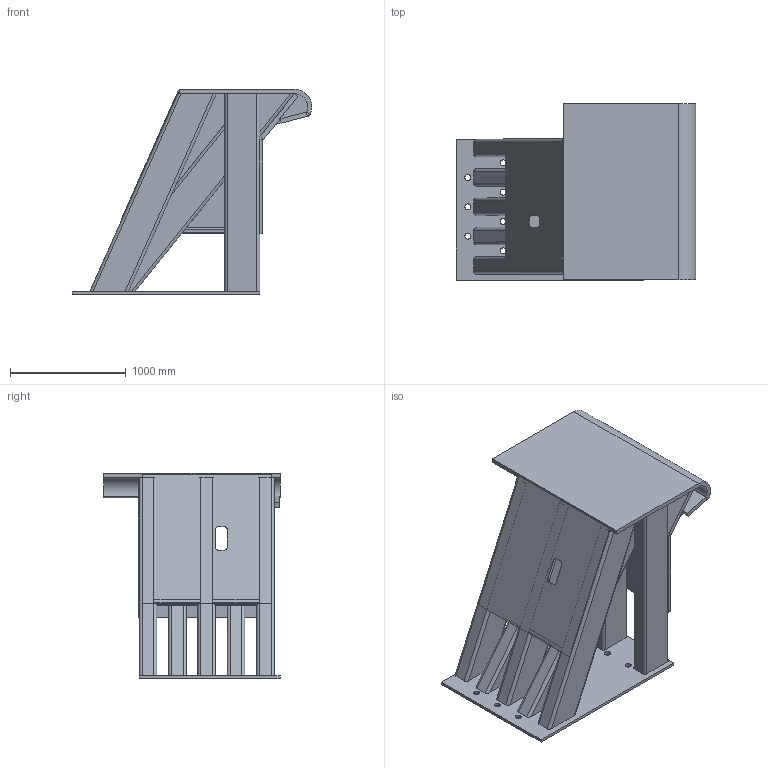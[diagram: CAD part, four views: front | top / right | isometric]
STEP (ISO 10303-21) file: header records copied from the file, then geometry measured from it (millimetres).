
FILE_DESCRIPTION (( 'STEP AP203' ), '1' );
FILE_NAME ('Flat 150 Barrier.STEP', '2012-02-08T16:24:26', ( 'Admin' ), ( '' ), 'SwSTEP 2.0', 'SolidWorks 2012', '' );
FILE_SCHEMA (( 'CONFIG_CONTROL_DESIGN' ));
Length unit declared in the file: inch
Products named in the file (15): Kick Plate_Default<As Machined>; Long Diagonal_Default<As Machined>; Short Diagonal_Default<As Machined>; Longi Tube_Default<As Machined>; Front Face; Mounting Plate; Offside Plate Support_Default<As Machined>; Weld Fill 2; Weld Fill 1; Top Plate Support_Default<As Machined>; Top Plate_Default<As Machined>; Bight Brace; Offside Plate; Side Plate; Flat 150 Barrier
Assembly tree (19 placements, depth 2):
  Flat 150 Barrier
    Mounting Plate
    Front Face
    Longi Tube_Default<As Machined>  x3
    Short Diagonal_Default<As Machined>  x3
    Long Diagonal_Default<As Machined>  x2
    Kick Plate_Default<As Machined>
    Side Plate
    Offside Plate
    Bight Brace
    Top Plate_Default<As Machined>
    Top Plate Support_Default<As Machined>
    Weld Fill 1
    Weld Fill 2
    Offside Plate Support_Default<As Machined>
Bounding box: 2075.28 x 1524 x 1778 mm (x, y, z)
Volume: 358286060.8 mm3; surface area: 43458795.1 mm2
Topology: 20 solids, 20 shells, 302 faces, 804 edges, 536 vertices
Faces by surface type: plane 172, cylinder 130
Entity records: 8996 total; most frequent: CARTESIAN_POINT 1917, ORIENTED_EDGE 1128, DIRECTION 1080, EDGE_CURVE 564, VERTEX_POINT 376, LINE 372, VECTOR 372, AXIS2_PLACEMENT_3D 354
